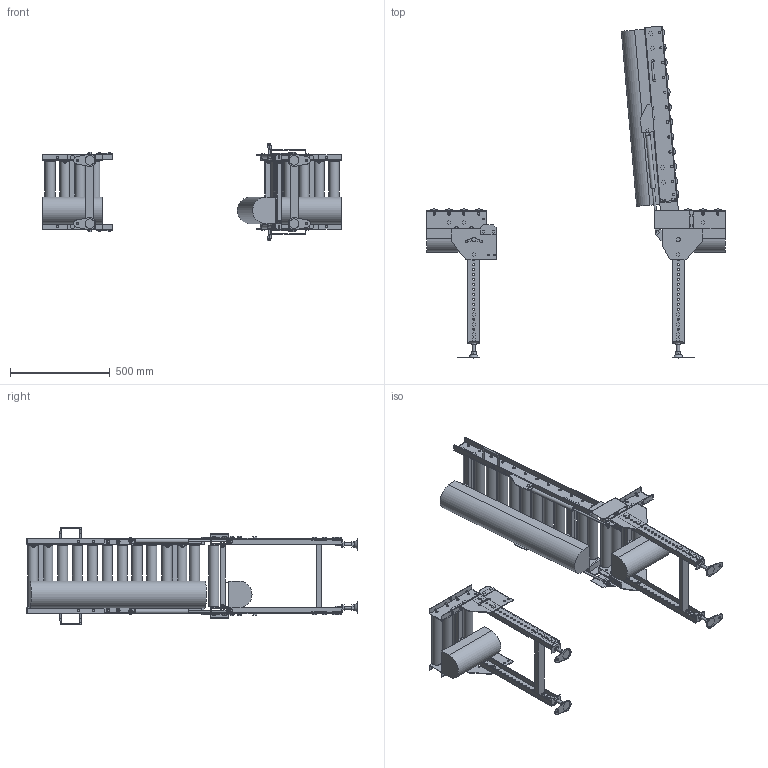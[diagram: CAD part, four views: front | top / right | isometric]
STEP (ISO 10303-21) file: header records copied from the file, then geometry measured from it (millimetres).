
FILE_DESCRIPTION (( 'STEP AP214' ), '1' );
FILE_NAME ('MCD50HU-R-315-75-900.STEP', '2022-11-17T07:51:22', ( '' ), ( '' ), 'SwSTEP 2.0', 'SolidWorks 2017', '' );
FILE_SCHEMA (( 'AUTOMOTIVE_DESIGN' ));
Length unit declared in the file: millimetre
Products named in the file (1): MCD50HU-R-315-75-900
Bounding box: 1500 x 1665.85 x 491.39 mm (x, y, z)
Volume: 38119567.2 mm3; surface area: 4044382.3 mm2
Topology: 5 solids, 31 shells, 2618 faces, 6544 edges, 4165 vertices
Faces by surface type: plane 2139, cylinder 461, cone 10, torus 8
Full cylindrical faces by diameter (mm): 8 x8, 8.5 x8, 9 x20, 10 x58, 10.5 x96, 11 x8, 12 x42, 13 x12, 14 x4, 15 x6, 15.4 x2, 15.7 x2, 16 x10, 17 x4, 18 x6, 18.4 x28, 18.5 x8, 21 x12, 22 x2, 50.8 x20
Entity records: 75838 total; most frequent: CARTESIAN_POINT 12962, DIRECTION 12690, ORIENTED_EDGE 11964, EDGE_CURVE 5982, VECTOR 4504, LINE 4504, AXIS2_PLACEMENT_3D 4093, VERTEX_POINT 3977
